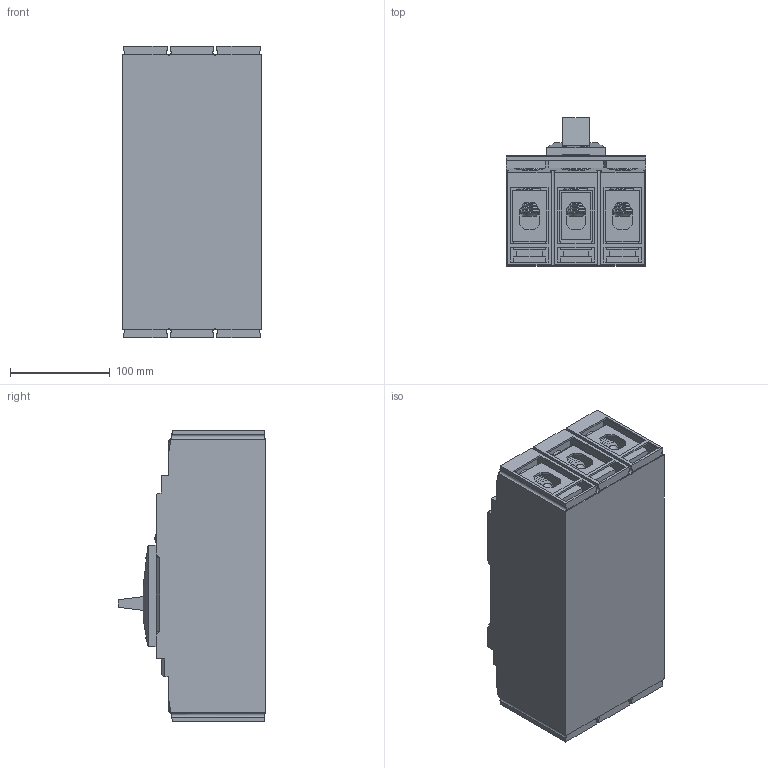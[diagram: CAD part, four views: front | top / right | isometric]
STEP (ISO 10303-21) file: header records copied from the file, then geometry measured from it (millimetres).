
FILE_DESCRIPTION(/* description */ ('','CAx-IF Rec.Pracs.---Representation and Presentation of Product Manufacturing Information (PMI)---3.8---2014-02-18'),/* implementation_level */ '2;1');
FILE_NAME(/* name */ 'E:\3D model\40-susol-mccb-400af-ul.stp',/* time_stamp */ '2017-11-09T14:52:13+03:00',/* author */ ('dobrin'),/* organization */ (''),/* preprocessor_version */ 'ST-DEVELOPER v16.13',/* originating_system */ 'Autodesk Inventor 2018',/* authorisation */ '');
FILE_SCHEMA (('AP242_MANAGED_MODEL_BASED_3D_ENGINEERING_MIM_LF { 1 0 10303 442 1 1 4 }'));
Length unit declared in the file: metre
Products named in the file (1): 40-susol-mccb-400af-ul
Bounding box: 140 x 148 x 292 mm (x, y, z)
Volume: 3813660.4 mm3; surface area: 365537.4 mm2
Topology: 1 solids, 1 shells, 1116 faces, 2999 edges, 1969 vertices
Faces by surface type: plane 970, cylinder 84, bspline 36, torus 14, cone 12
Full cylindrical faces by diameter (mm): 2.5 x1, 4 x1, 7.8 x4, 20 x12, 23 x6, 25 x6, 27 x6, 30 x6
Entity records: 44268 total; most frequent: CARTESIAN_POINT 16656, ORIENTED_EDGE 5822, DIRECTION 5204, EDGE_CURVE 2911, LINE 2570, VECTOR 2570, VERTEX_POINT 1937, AXIS2_PLACEMENT_3D 1321
